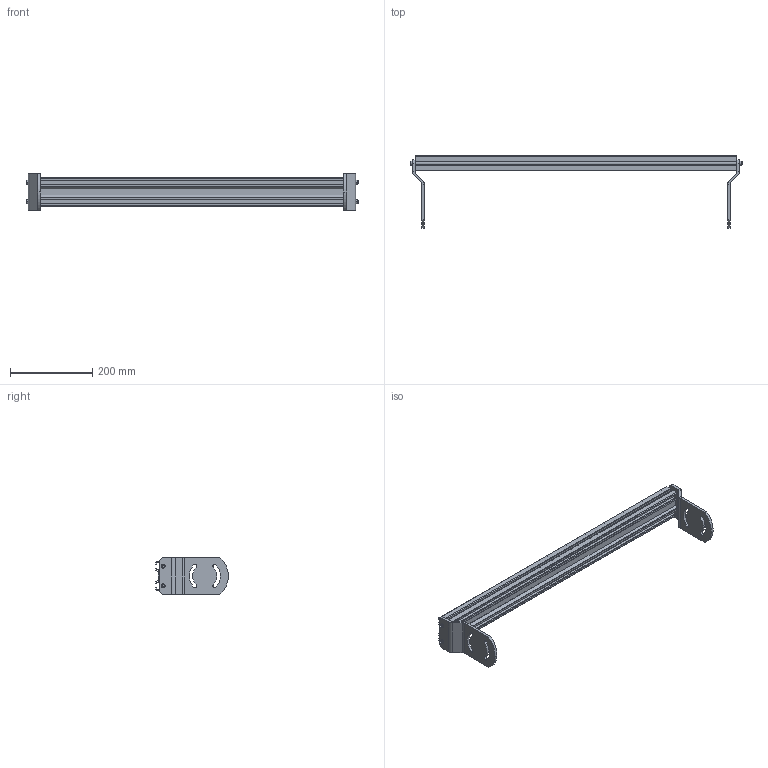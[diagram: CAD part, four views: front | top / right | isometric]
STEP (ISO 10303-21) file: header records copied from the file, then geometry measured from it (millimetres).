
FILE_DESCRIPTION((''),'2;1');
FILE_NAME('39MCM28-3_ASM','2023-03-01T',('jenni.wallner'),(''),'PRO/ENGINEER BY PARAMETRIC TECHNOLOGY CORPORATION, 2012420','PRO/ENGINEER BY PARAMETRIC TECHNOLOGY CORPORATION, 2012420','');
FILE_SCHEMA(('CONFIG_CONTROL_DESIGN'));
Length unit declared in the file: inch
Products named in the file (5): 710210_03079; 300825M; 708180P; 39MCM28-3_ASM_ASM; 39MCM28-3_ASM
Assembly tree (8 placements, depth 3):
  39MCM28-3_ASM
    39MCM28-3_ASM_ASM
      710210_03079
      300825M  x2
      708180P  x4
Bounding box: 806.77 x 176.65 x 88.93 mm (x, y, z)
Volume: 731674.3 mm3; surface area: 530111.7 mm2
Topology: 7 solids, 7 shells, 256 faces, 702 edges, 468 vertices
Faces by surface type: plane 144, cylinder 92, cone 20
Entity records: 5052 total; most frequent: CARTESIAN_POINT 890, DIRECTION 863, ORIENTED_EDGE 836, EDGE_CURVE 418, VECTOR 301, LINE 301, AXIS2_PLACEMENT_3D 281, VERTEX_POINT 276
